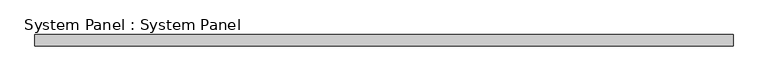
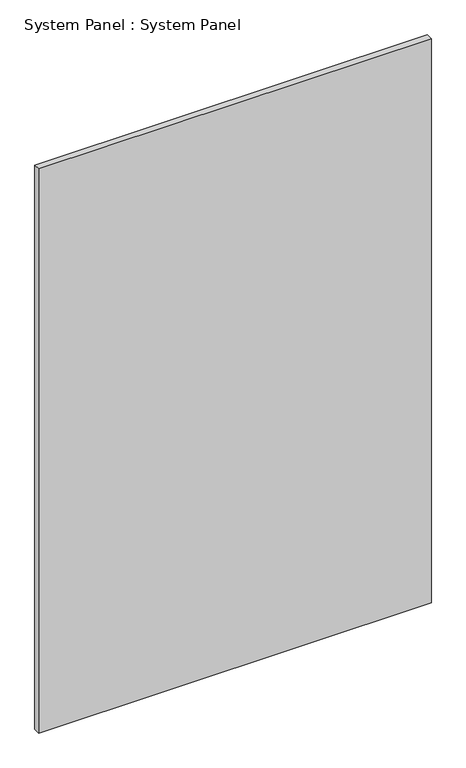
"""IFC4 building model written with IfcOpenShell, lengths in millimetres: plate geometry, System Panel : System Panel."""

from ifc_helpers import new_model, si_unit, origin, origin_with_axes, place, context, project, spatial, polyline, outline, extrude, source, transform, mapped, element, save


def system_panel_system_panel_459aa32f(model_context):
    return source(origin(), model_context, "Body", "SweptSolid", [
        extrude(outline(polyline([(771.525, 19.05), (-771.525, 19.05), (-771.525, 44.45), (771.525, 44.45), (771.525, 19.05)])), origin_with_axes(), (0.0, 0.0, 1.0), 2343.15),
    ])


if __name__ == "__main__":
    model = new_model("IFC4")
    model_context = context("Model", 3, world=origin())
    ifc_project = project(units=[si_unit("LENGTHUNIT", "METRE", prefix="MILLI")], contexts=[model_context])
    site = spatial("IfcSite", under=ifc_project)
    building = spatial("IfcBuilding", under=site)
    placement = place(None, origin())
    system_panel_system_panel_shape = system_panel_system_panel_459aa32f(model_context)
    element("IfcPlate", 1, ObjectType="System Panel : System Panel", at=placement, inside=building, context=model_context, shape_type="MappedRepresentation", body=[
        mapped(system_panel_system_panel_shape, transform((0.0, 0.0, 0.0), x_axis=(1.0, 0.0, 0.0), y_axis=(0.0, 1.0, 0.0), z_axis=(0.0, 0.0, 1.0))),
    ])
    save(model, "model.ifc")
